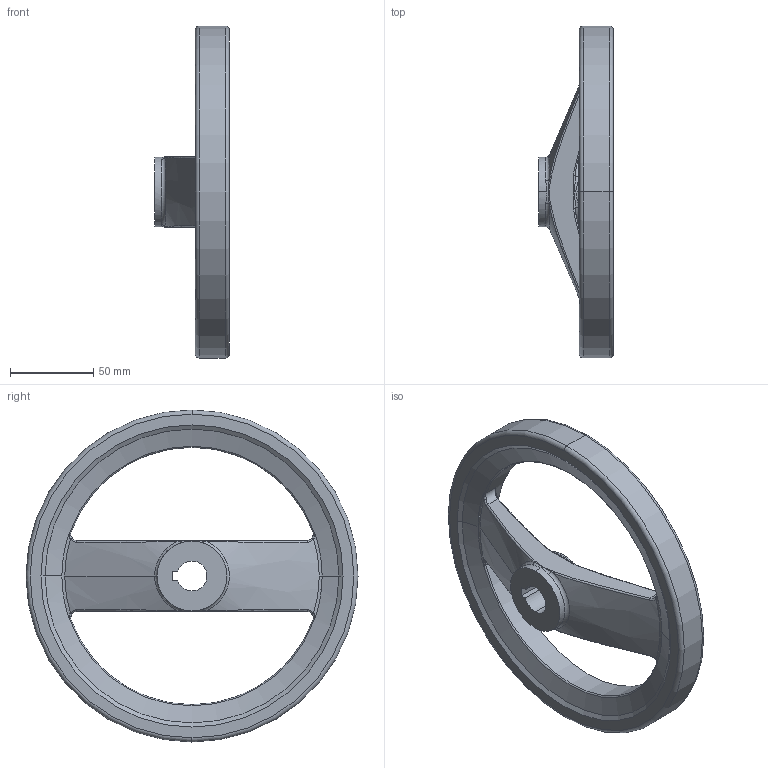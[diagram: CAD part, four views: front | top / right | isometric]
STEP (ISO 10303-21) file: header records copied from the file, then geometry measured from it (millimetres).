
FILE_DESCRIPTION (( 'STEP AP214' ), '1' );
FILE_NAME ('322-200-K18-A.step', '2024-09-24T07:23:29', ( '' ), ( '' ), 'SwSTEP 2.0', 'SolidWorks 2022', '' );
FILE_SCHEMA (( 'AUTOMOTIVE_DESIGN' ));
Length unit declared in the file: millimetre
Products named in the file (1): 322-200-K18-A
Bounding box: 45 x 200 x 200 mm (x, y, z)
Volume: 325759.8 mm3; surface area: 62784.7 mm2
Topology: 1 solids, 1 shells, 100 faces, 251 edges, 151 vertices
Faces by surface type: bspline 48, cylinder 18, torus 15, cone 10, plane 9
Entity records: 6111 total; most frequent: CARTESIAN_POINT 2890, ORIENTED_EDGE 502, DIRECTION 367, EDGE_CURVE 251, AXIS2_PLACEMENT_3D 166, VERTEX_POINT 151, CIRCLE 113, EDGE_LOOP 104
